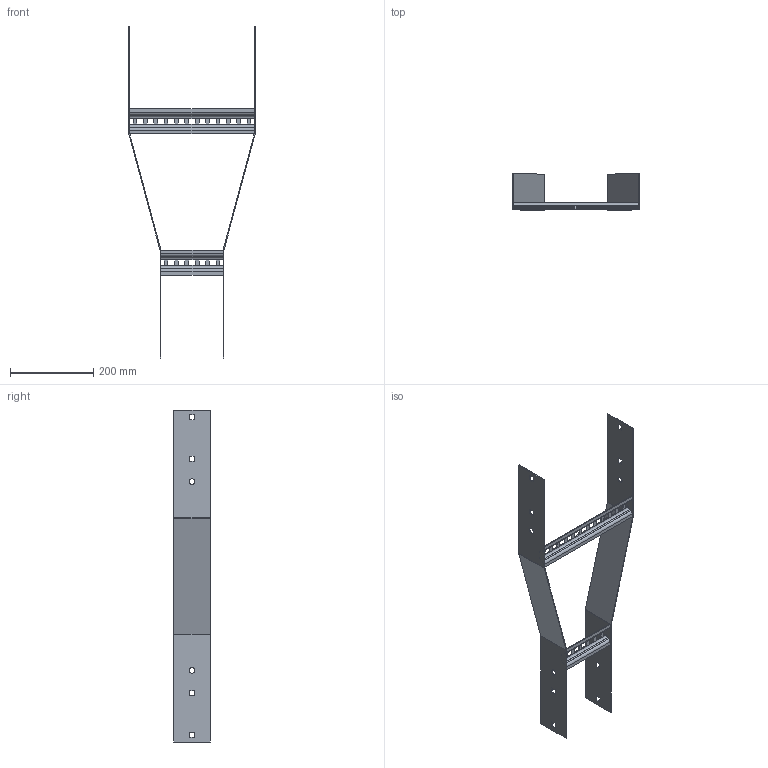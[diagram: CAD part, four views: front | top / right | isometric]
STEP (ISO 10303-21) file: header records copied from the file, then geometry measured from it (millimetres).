
FILE_DESCRIPTION (( 'STEP AP203' ), '1' );
FILE_NAME ('N2 SR300150.STEP', '2024-08-27T22:23:02', ( '' ), ( '' ), 'SwSTEP 2.0', 'SolidWorks 2023', '' );
FILE_SCHEMA (( 'CONFIG_CONTROL_DESIGN' ));
Length unit declared in the file: millimetre
Products named in the file (4): N2 SR300150; N2 Reducer side plate_SR150x300; Ladder Rung_Ladder Rung -  150mm; Ladder Rung_Ladder Rung -  300mm
Assembly tree (4 placements, depth 2):
  N2 SR300150
    N2 Reducer side plate_SR150x300  x2
    Ladder Rung_Ladder Rung -  150mm
    Ladder Rung_Ladder Rung -  300mm
Bounding box: 304 x 87 x 800 mm (x, y, z)
Volume: 326322.5 mm3; surface area: 350126.8 mm2
Topology: 4 solids, 4 shells, 240 faces, 600 edges, 368 vertices
Faces by surface type: plane 208, cylinder 32
Entity records: 6262 total; most frequent: CARTESIAN_POINT 1005, ORIENTED_EDGE 992, DIRECTION 954, EDGE_CURVE 496, LINE 448, VECTOR 448, VERTEX_POINT 304, AXIS2_PLACEMENT_3D 253
